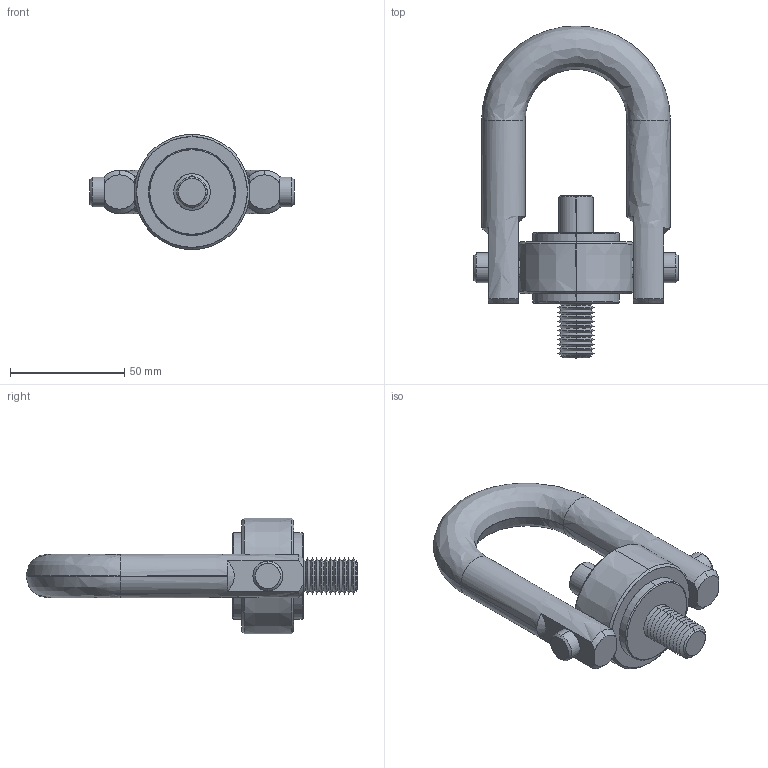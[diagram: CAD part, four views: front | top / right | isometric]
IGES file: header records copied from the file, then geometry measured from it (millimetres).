
Start section: SolidWorks IGES file using analytic representation for surfaces
Global section: file name: C:\Users\liam_\OneDrive\Documents\WORK\Work for WixRoyd\Job Files\J-00025 - Matt Davis CAD - 20191106\04. CAD Drawings\Wixroyd20191106\63572_v2\63572_v2_20191120_IGES\63572.W0161.igs; native system: SolidWorks 2017; preprocessor: SolidWorks 2017; author: liam_; date: 191120.203412; units: millimetre
Bounding box: 89.4 x 145.4 x 50.5 mm (x, y, z)
Surface area: 33186.4 mm2 (no closed solid volume)
Topology: 0 solids, 0 shells, 124 faces, 1514 edges, 1512 vertices
Faces by surface type: revolution 96, bspline 28
